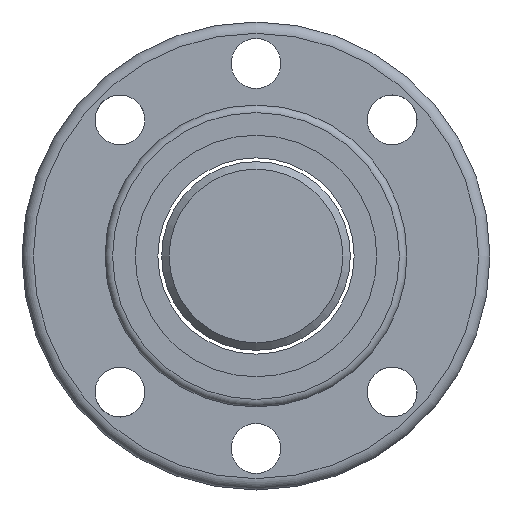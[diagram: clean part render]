
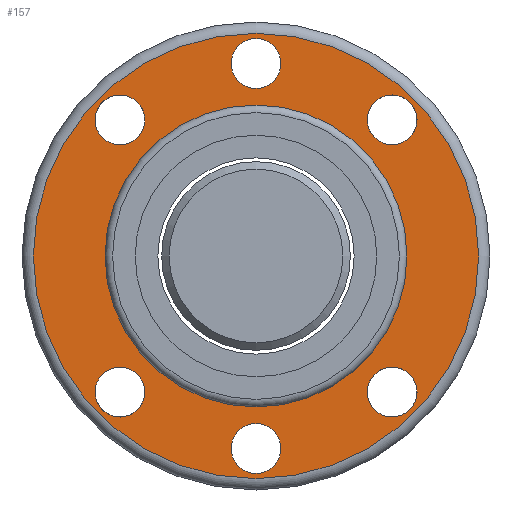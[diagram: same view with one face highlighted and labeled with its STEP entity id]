
A CAD part, left-side view. The second image highlights one B-rep face of the part: STEP entity #157.
In plain terms, the highlighted planar face has unit normal (-1, 0, 0).
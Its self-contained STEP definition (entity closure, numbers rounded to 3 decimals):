
#120=PLANE('',#663);
#135=FACE_OUTER_BOUND('',#318,.T.);
#157=ADVANCED_FACE('',(#226,#227,#228,#229,#230,#231,#232,#135),#120,.T.);
#226=FACE_BOUND('',#311,.T.);
#227=FACE_BOUND('',#312,.T.);
#228=FACE_BOUND('',#313,.T.);
#229=FACE_BOUND('',#314,.T.);
#230=FACE_BOUND('',#315,.T.);
#231=FACE_BOUND('',#316,.T.);
#232=FACE_BOUND('',#317,.T.);
#311=EDGE_LOOP('',(#409));
#312=EDGE_LOOP('',(#410));
#313=EDGE_LOOP('',(#411));
#314=EDGE_LOOP('',(#412));
#315=EDGE_LOOP('',(#413));
#316=EDGE_LOOP('',(#414));
#317=EDGE_LOOP('',(#415));
#318=EDGE_LOOP('',(#416));
#409=ORIENTED_EDGE('',*,*,#548,.F.);
#410=ORIENTED_EDGE('',*,*,#549,.F.);
#411=ORIENTED_EDGE('',*,*,#550,.F.);
#412=ORIENTED_EDGE('',*,*,#551,.F.);
#413=ORIENTED_EDGE('',*,*,#552,.F.);
#414=ORIENTED_EDGE('',*,*,#553,.F.);
#415=ORIENTED_EDGE('',*,*,#554,.T.);
#416=ORIENTED_EDGE('',*,*,#546,.F.);
#497=VERTEX_POINT('',#944);
#499=VERTEX_POINT('',#949);
#500=VERTEX_POINT('',#951);
#501=VERTEX_POINT('',#953);
#502=VERTEX_POINT('',#955);
#503=VERTEX_POINT('',#957);
#504=VERTEX_POINT('',#959);
#505=VERTEX_POINT('',#961);
#546=EDGE_CURVE('',#497,#497,#595,.T.);
#548=EDGE_CURVE('',#499,#499,#597,.T.);
#549=EDGE_CURVE('',#500,#500,#598,.T.);
#550=EDGE_CURVE('',#501,#501,#599,.T.);
#551=EDGE_CURVE('',#502,#502,#600,.T.);
#552=EDGE_CURVE('',#503,#503,#601,.T.);
#553=EDGE_CURVE('',#504,#504,#602,.T.);
#554=EDGE_CURVE('',#505,#505,#603,.T.);
#595=CIRCLE('',#653,29.5);
#597=CIRCLE('',#656,3.3);
#598=CIRCLE('',#657,3.3);
#599=CIRCLE('',#658,3.3);
#600=CIRCLE('',#659,3.3);
#601=CIRCLE('',#660,3.3);
#602=CIRCLE('',#661,3.3);
#603=CIRCLE('',#662,20.);
#653=AXIS2_PLACEMENT_3D('',#943,#764,#765);
#656=AXIS2_PLACEMENT_3D('',#948,#770,#771);
#657=AXIS2_PLACEMENT_3D('',#950,#772,#773);
#658=AXIS2_PLACEMENT_3D('',#952,#774,#775);
#659=AXIS2_PLACEMENT_3D('',#954,#776,#777);
#660=AXIS2_PLACEMENT_3D('',#956,#778,#779);
#661=AXIS2_PLACEMENT_3D('',#958,#780,#781);
#662=AXIS2_PLACEMENT_3D('',#960,#782,#783);
#663=AXIS2_PLACEMENT_3D('',#962,#784,#785);
#764=DIRECTION('',(1.,0.,0.));
#765=DIRECTION('',(0.,1.,0.));
#770=DIRECTION('',(-1.,0.,0.));
#771=DIRECTION('',(0.,-1.,0.));
#772=DIRECTION('',(-1.,0.,0.));
#773=DIRECTION('',(0.,-1.,0.));
#774=DIRECTION('',(-1.,0.,0.));
#775=DIRECTION('',(0.,-1.,0.));
#776=DIRECTION('',(-1.,0.,0.));
#777=DIRECTION('',(0.,-1.,0.));
#778=DIRECTION('',(-1.,0.,0.));
#779=DIRECTION('',(0.,-1.,0.));
#780=DIRECTION('',(-1.,0.,0.));
#781=DIRECTION('',(0.,-1.,0.));
#782=DIRECTION('',(1.,0.,0.));
#783=DIRECTION('',(0.,1.,0.));
#784=DIRECTION('',(-1.,0.,0.));
#785=DIRECTION('',(0.,-1.,0.));
#943=CARTESIAN_POINT('',(-22.5,0.,0.));
#944=CARTESIAN_POINT('',(-22.5,29.5,0.));
#948=CARTESIAN_POINT('',(-22.5,18.031,18.031));
#949=CARTESIAN_POINT('',(-22.5,14.731,18.031));
#950=CARTESIAN_POINT('',(-22.5,18.031,-18.031));
#951=CARTESIAN_POINT('',(-22.5,14.731,-18.031));
#952=CARTESIAN_POINT('',(-22.5,0.,-25.5));
#953=CARTESIAN_POINT('',(-22.5,-3.3,-25.5));
#954=CARTESIAN_POINT('',(-22.5,-18.031,-18.031));
#955=CARTESIAN_POINT('',(-22.5,-21.331,-18.031));
#956=CARTESIAN_POINT('',(-22.5,-18.031,18.031));
#957=CARTESIAN_POINT('',(-22.5,-21.331,18.031));
#958=CARTESIAN_POINT('',(-22.5,0.,25.5));
#959=CARTESIAN_POINT('',(-22.5,-3.3,25.5));
#960=CARTESIAN_POINT('',(-22.5,0.,0.));
#961=CARTESIAN_POINT('',(-22.5,20.,0.));
#962=CARTESIAN_POINT('',(-22.5,24.75,0.));
